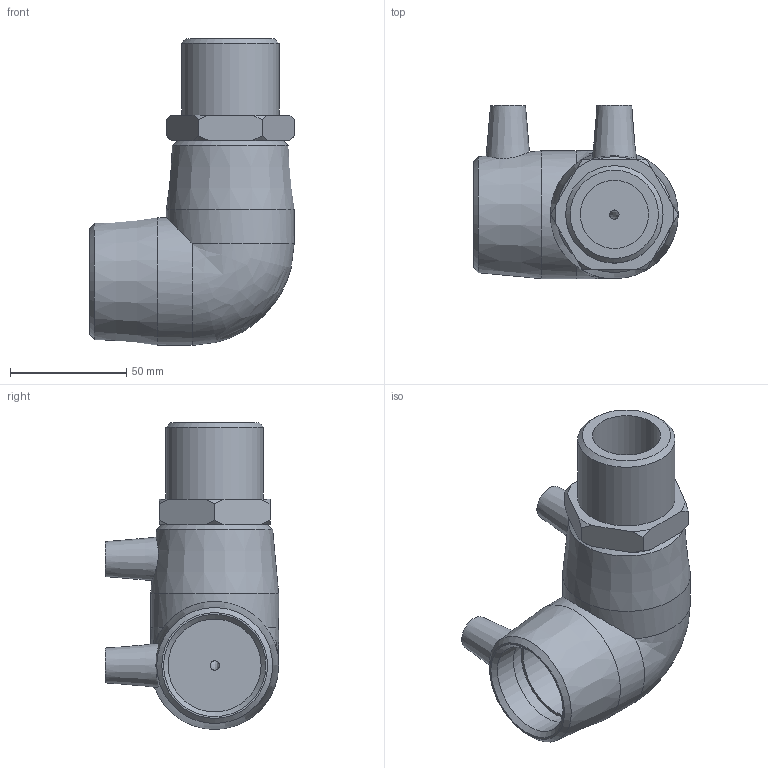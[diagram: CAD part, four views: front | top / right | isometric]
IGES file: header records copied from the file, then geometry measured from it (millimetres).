
Global section: file name: 497504040013.ipt; native system: Autodesk Inventor 2015; preprocessor: unknown; author: KIM; date: 20190421.151317; units: millimetre
Bounding box: 88 x 74.5 x 132 mm (x, y, z)
Volume: 243536.9 mm3; surface area: 55764 mm2
Topology: 2 solids, 2 shells, 60 faces, 146 edges, 98 vertices
Faces by surface type: plane 22, cone 19, revolution 12, cylinder 6, bspline 1
Full cylindrical faces by diameter (mm): 4 x2, 40 x1, 41.91 x1, 55 x2
